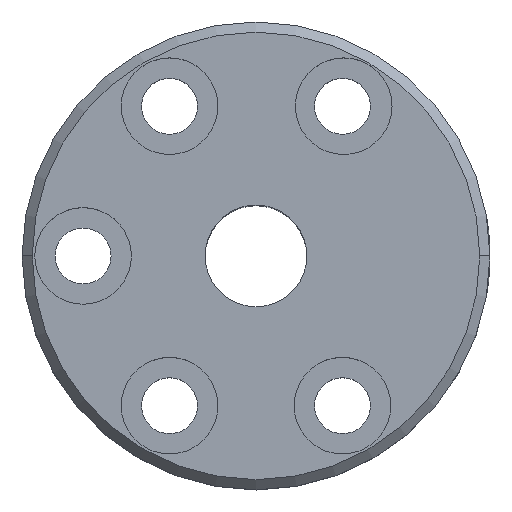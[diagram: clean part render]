
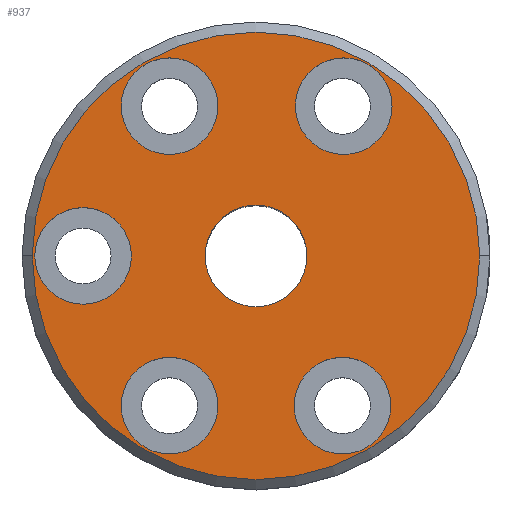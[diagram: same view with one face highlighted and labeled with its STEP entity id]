
A CAD part, top view. The second image highlights one B-rep face of the part: STEP entity #937.
In plain terms, the highlighted planar face has unit normal (0, 0, 1).
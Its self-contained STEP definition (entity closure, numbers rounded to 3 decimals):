
#181=CARTESIAN_POINT('',(0.,0.,10.));
#182=DIRECTION('',(0.,0.,1.));
#183=DIRECTION('',(0.,1.,0.));
#184=AXIS2_PLACEMENT_3D('',#181,#182,#183);
#186=CARTESIAN_POINT('',(0.,0.,10.));
#187=DIRECTION('',(0.,0.,1.));
#188=DIRECTION('',(0.,-1.,0.));
#189=AXIS2_PLACEMENT_3D('',#186,#187,#188);
#191=CARTESIAN_POINT('',(-8.5,14.722,10.));
#192=DIRECTION('',(0.,0.,1.));
#193=DIRECTION('',(1.,0.,0.));
#194=AXIS2_PLACEMENT_3D('',#191,#192,#193);
#196=CARTESIAN_POINT('',(-8.5,14.722,10.));
#197=DIRECTION('',(0.,0.,1.));
#198=DIRECTION('',(-1.,0.,0.));
#199=AXIS2_PLACEMENT_3D('',#196,#197,#198);
#201=CARTESIAN_POINT('',(8.626,14.722,10.));
#202=DIRECTION('',(0.,0.,1.));
#203=DIRECTION('',(1.,0.,0.));
#204=AXIS2_PLACEMENT_3D('',#201,#202,#203);
#206=CARTESIAN_POINT('',(8.626,14.722,10.));
#207=DIRECTION('',(0.,0.,1.));
#208=DIRECTION('',(-1.,0.,0.));
#209=AXIS2_PLACEMENT_3D('',#206,#207,#208);
#211=CARTESIAN_POINT('',(-17.,0.,10.));
#212=DIRECTION('',(0.,0.,1.));
#213=DIRECTION('',(1.,0.,0.));
#214=AXIS2_PLACEMENT_3D('',#211,#212,#213);
#216=CARTESIAN_POINT('',(-17.,0.,10.));
#217=DIRECTION('',(0.,0.,1.));
#218=DIRECTION('',(-1.,0.,0.));
#219=AXIS2_PLACEMENT_3D('',#216,#217,#218);
#221=CARTESIAN_POINT('',(-8.5,-14.722,10.));
#222=DIRECTION('',(0.,0.,1.));
#223=DIRECTION('',(1.,0.,0.));
#224=AXIS2_PLACEMENT_3D('',#221,#222,#223);
#226=CARTESIAN_POINT('',(-8.5,-14.722,10.));
#227=DIRECTION('',(0.,0.,1.));
#228=DIRECTION('',(-1.,0.,0.));
#229=AXIS2_PLACEMENT_3D('',#226,#227,#228);
#231=CARTESIAN_POINT('',(8.5,-14.722,10.));
#232=DIRECTION('',(0.,0.,1.));
#233=DIRECTION('',(1.,0.,0.));
#234=AXIS2_PLACEMENT_3D('',#231,#232,#233);
#236=CARTESIAN_POINT('',(8.5,-14.722,10.));
#237=DIRECTION('',(0.,0.,1.));
#238=DIRECTION('',(-1.,0.,0.));
#239=AXIS2_PLACEMENT_3D('',#236,#237,#238);
#241=CARTESIAN_POINT('',(0.,0.,10.));
#242=DIRECTION('',(0.,0.,1.));
#243=DIRECTION('',(-1.,0.,0.));
#244=AXIS2_PLACEMENT_3D('',#241,#242,#243);
#246=CARTESIAN_POINT('',(0.,0.,10.));
#247=DIRECTION('',(0.,0.,1.));
#248=DIRECTION('',(1.,0.,0.));
#249=AXIS2_PLACEMENT_3D('',#246,#247,#248);
#565=CARTESIAN_POINT('',(0.,5.,10.));
#566=CARTESIAN_POINT('',(0.,-5.,10.));
#567=VERTEX_POINT('',#565);
#568=VERTEX_POINT('',#566);
#613=CARTESIAN_POINT('',(-3.75,14.722,10.));
#614=CARTESIAN_POINT('',(-13.25,14.722,10.));
#615=VERTEX_POINT('',#613);
#616=VERTEX_POINT('',#614);
#617=CARTESIAN_POINT('',(13.376,14.722,10.));
#618=CARTESIAN_POINT('',(3.876,14.722,10.));
#619=VERTEX_POINT('',#617);
#620=VERTEX_POINT('',#618);
#621=CARTESIAN_POINT('',(-12.25,0.,10.));
#622=CARTESIAN_POINT('',(-21.75,0.,10.));
#623=VERTEX_POINT('',#621);
#624=VERTEX_POINT('',#622);
#625=CARTESIAN_POINT('',(-3.75,-14.722,10.));
#626=CARTESIAN_POINT('',(-13.25,-14.722,10.));
#627=VERTEX_POINT('',#625);
#628=VERTEX_POINT('',#626);
#629=CARTESIAN_POINT('',(13.25,-14.722,10.));
#630=CARTESIAN_POINT('',(3.75,-14.722,10.));
#631=VERTEX_POINT('',#629);
#632=VERTEX_POINT('',#630);
#633=CARTESIAN_POINT('',(-22.,0.,10.));
#634=CARTESIAN_POINT('',(22.,0.,10.));
#635=VERTEX_POINT('',#633);
#636=VERTEX_POINT('',#634);
#891=CARTESIAN_POINT('',(0.,0.,10.));
#892=DIRECTION('',(0.,0.,1.));
#893=DIRECTION('',(1.,0.,0.));
#894=AXIS2_PLACEMENT_3D('',#891,#892,#893);
#895=PLANE('',#894);
#897=ORIENTED_EDGE('',*,*,#896,.F.);
#899=ORIENTED_EDGE('',*,*,#898,.F.);
#900=EDGE_LOOP('',(#897,#899));
#901=FACE_OUTER_BOUND('',#900,.F.);
#903=ORIENTED_EDGE('',*,*,#902,.T.);
#905=ORIENTED_EDGE('',*,*,#904,.T.);
#906=EDGE_LOOP('',(#903,#905));
#907=FACE_BOUND('',#906,.F.);
#909=ORIENTED_EDGE('',*,*,#908,.T.);
#911=ORIENTED_EDGE('',*,*,#910,.T.);
#912=EDGE_LOOP('',(#909,#911));
#913=FACE_BOUND('',#912,.F.);
#915=ORIENTED_EDGE('',*,*,#914,.T.);
#917=ORIENTED_EDGE('',*,*,#916,.T.);
#918=EDGE_LOOP('',(#915,#917));
#919=FACE_BOUND('',#918,.F.);
#921=ORIENTED_EDGE('',*,*,#920,.T.);
#923=ORIENTED_EDGE('',*,*,#922,.T.);
#924=EDGE_LOOP('',(#921,#923));
#925=FACE_BOUND('',#924,.F.);
#927=ORIENTED_EDGE('',*,*,#926,.T.);
#929=ORIENTED_EDGE('',*,*,#928,.T.);
#930=EDGE_LOOP('',(#927,#929));
#931=FACE_BOUND('',#930,.F.);
#932=ORIENTED_EDGE('',*,*,#881,.T.);
#934=ORIENTED_EDGE('',*,*,#933,.T.);
#935=EDGE_LOOP('',(#932,#934));
#936=FACE_BOUND('',#935,.F.);
#937=ADVANCED_FACE('',(#901,#907,#913,#919,#925,#931,#936),#895,.T.);
#185=CIRCLE('',#184,5.);
#190=CIRCLE('',#189,5.);
#195=CIRCLE('',#194,4.75);
#200=CIRCLE('',#199,4.75);
#205=CIRCLE('',#204,4.75);
#210=CIRCLE('',#209,4.75);
#215=CIRCLE('',#214,4.75);
#220=CIRCLE('',#219,4.75);
#225=CIRCLE('',#224,4.75);
#230=CIRCLE('',#229,4.75);
#235=CIRCLE('',#234,4.75);
#240=CIRCLE('',#239,4.75);
#245=CIRCLE('',#244,22.);
#250=CIRCLE('',#249,22.);
#881=EDGE_CURVE('',#567,#568,#185,.T.);
#896=EDGE_CURVE('',#635,#636,#245,.T.);
#898=EDGE_CURVE('',#636,#635,#250,.T.);
#902=EDGE_CURVE('',#615,#616,#195,.T.);
#904=EDGE_CURVE('',#616,#615,#200,.T.);
#908=EDGE_CURVE('',#619,#620,#205,.T.);
#910=EDGE_CURVE('',#620,#619,#210,.T.);
#914=EDGE_CURVE('',#623,#624,#215,.T.);
#916=EDGE_CURVE('',#624,#623,#220,.T.);
#920=EDGE_CURVE('',#627,#628,#225,.T.);
#922=EDGE_CURVE('',#628,#627,#230,.T.);
#926=EDGE_CURVE('',#631,#632,#235,.T.);
#928=EDGE_CURVE('',#632,#631,#240,.T.);
#933=EDGE_CURVE('',#568,#567,#190,.T.);
